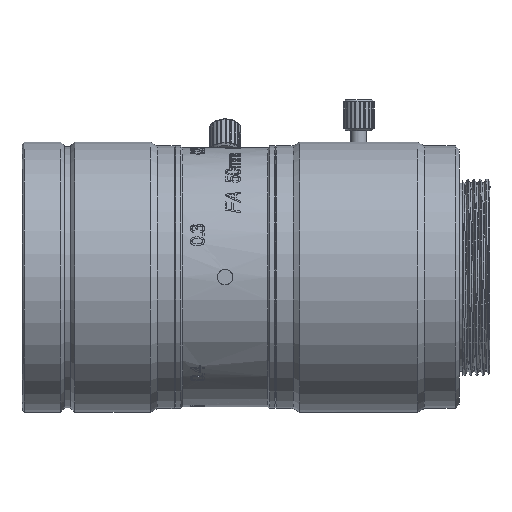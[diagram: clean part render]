
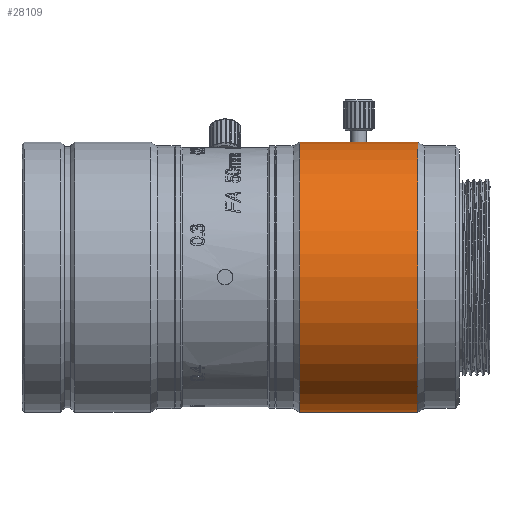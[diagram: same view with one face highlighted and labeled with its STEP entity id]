
A CAD part, front view. The second image highlights one B-rep face of the part: STEP entity #28109.
In plain terms, the highlighted cylindrical face has radius 17.5 mm (diameter 35 mm), a partial arc.
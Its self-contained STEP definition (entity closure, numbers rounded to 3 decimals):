
#1327 = DIRECTION ( 'NONE',  ( 1., 0., 0. ) ) ;
#1519 = CARTESIAN_POINT ( 'NONE',  ( 28.656, -0.801, 17.482 ) ) ;
#1622 = CARTESIAN_POINT ( 'NONE',  ( 48.418, 0., -17.5 ) ) ;
#2088 = FACE_OUTER_BOUND ( 'NONE', #27993, .T. ) ;
#2953 = CARTESIAN_POINT ( 'NONE',  ( 29.402, -1., -17.471 ) ) ;
#3003 = EDGE_CURVE ( 'NONE', #7774, #33556, #17912, .T. ) ;
#3227 = CARTESIAN_POINT ( 'NONE',  ( 29.009, -0.974, -17.473 ) ) ;
#3272 = EDGE_CURVE ( 'NONE', #53386, #48896, #53476, .T. ) ;
#3608 = AXIS2_PLACEMENT_3D ( 'NONE', #28934, #8171, #29209 ) ;
#3927 = ORIENTED_EDGE ( 'NONE', *, *, #31822, .T. ) ;
#4552 = EDGE_CURVE ( 'NONE', #53386, #5721, #21030, .T. ) ;
#5183 = CARTESIAN_POINT ( 'NONE',  ( 30.27, -0.132, 17.5 ) ) ;
#5721 = VERTEX_POINT ( 'NONE', #27954 ) ;
#6274 = CARTESIAN_POINT ( 'NONE',  ( 28.27, 0., 17.5 ) ) ;
#7434 = CARTESIAN_POINT ( 'NONE',  ( 28.655, -0.8, -17.482 ) ) ;
#7637 = CARTESIAN_POINT ( 'NONE',  ( 21.636, 0., 17.5 ) ) ;
#7774 = VERTEX_POINT ( 'NONE', #7637 ) ;
#8171 = DIRECTION ( 'NONE',  ( 1., 0., 0. ) ) ;
#10471 = CARTESIAN_POINT ( 'NONE',  ( 30.27, 0., 17.5 ) ) ;
#10763 = DIRECTION ( 'NONE',  ( 0., 0., -1. ) ) ;
#11664 = VECTOR ( 'NONE', #1327, 1000. ) ;
#12174 = CARTESIAN_POINT ( 'NONE',  ( 29.532, -0.974, -17.473 ) ) ;
#13014 = CARTESIAN_POINT ( 'NONE',  ( 21.636, 0., -17.5 ) ) ;
#13576 = DIRECTION ( 'NONE',  ( 0., 0., -1. ) ) ;
#13863 = CARTESIAN_POINT ( 'NONE',  ( 29.532, -0.974, 17.473 ) ) ;
#14413 = DIRECTION ( 'NONE',  ( 1., 0., 0. ) ) ;
#14613 = ORIENTED_EDGE ( 'NONE', *, *, #3272, .T. ) ;
#14755 = EDGE_CURVE ( 'NONE', #7774, #51654, #14762, .T. ) ;
#14762 = LINE ( 'NONE', #31042, #11664 ) ;
#15551 = CARTESIAN_POINT ( 'NONE',  ( 29.138, -1., -17.471 ) ) ;
#15578 = LINE ( 'NONE', #19796, #19828 ) ;
#15820 = CARTESIAN_POINT ( 'NONE',  ( 30.27, -0.131, -17.5 ) ) ;
#17912 = CIRCLE ( 'NONE', #3608, 17.5 ) ;
#18030 = B_SPLINE_CURVE_WITH_KNOTS ( 'NONE', 3,
 ( #10471, #5183, #52804, #27576, #35425, #22261, #44664, #13863, #53089, #34876, #30962, #26485, #1519, #39351, #31514, #23085, #26751, #6274 ),
 .UNSPECIFIED., .F., .F.,
 ( 4, 2, 2, 2, 2, 2, 2, 2, 4 ),
 ( 0., 0., 0.001, 0.001, 0.002, 0.002, 0.002, 0.003, 0.003 ),
 .UNSPECIFIED. ) ;
#18320 = ORIENTED_EDGE ( 'NONE', *, *, #14755, .F. ) ;
#19796 = CARTESIAN_POINT ( 'NONE',  ( 48.418, 0., 17.5 ) ) ;
#19828 = VECTOR ( 'NONE', #45582, 1000. ) ;
#20302 = CARTESIAN_POINT ( 'NONE',  ( 28.766, -0.874, -17.478 ) ) ;
#20584 = CARTESIAN_POINT ( 'NONE',  ( 28.27, -0.264, -17.5 ) ) ;
#20866 = CARTESIAN_POINT ( 'NONE',  ( 30.069, -0.614, -17.489 ) ) ;
#21020 = CARTESIAN_POINT ( 'NONE',  ( 36.895, 0., -17.5 ) ) ;
#21030 = B_SPLINE_CURVE_WITH_KNOTS ( 'NONE', 3,
 ( #28460, #15820, #50593, #29293, #20866, #41622, #49768, #12174, #2953, #15551, #3227, #20302, #7434, #33201, #20584, #37684 ),
 .UNSPECIFIED., .F., .F.,
 ( 4, 2, 2, 2, 2, 2, 2, 4 ),
 ( 0.003, 0.004, 0.004, 0.004, 0.005, 0.005, 0.005, 0.006 ),
 .UNSPECIFIED. ) ;
#22249 = CARTESIAN_POINT ( 'NONE',  ( 36.895, 0., 0. ) ) ;
#22261 = CARTESIAN_POINT ( 'NONE',  ( 29.884, -0.799, 17.482 ) ) ;
#22302 = CARTESIAN_POINT ( 'NONE',  ( 28.27, 0., 17.5 ) ) ;
#22542 = EDGE_CURVE ( 'NONE', #29590, #48896, #50356, .T. ) ;
#23085 = CARTESIAN_POINT ( 'NONE',  ( 28.295, -0.261, 17.498 ) ) ;
#23875 = ORIENTED_EDGE ( 'NONE', *, *, #22542, .F. ) ;
#24780 = CARTESIAN_POINT ( 'NONE',  ( 48.418, 0., -17.5 ) ) ;
#25087 = ORIENTED_EDGE ( 'NONE', *, *, #34514, .T. ) ;
#25613 = LINE ( 'NONE', #24780, #34065 ) ;
#25885 = DIRECTION ( 'NONE',  ( 1., 0., 0. ) ) ;
#26187 = AXIS2_PLACEMENT_3D ( 'NONE', #22249, #51693, #13576 ) ;
#26485 = CARTESIAN_POINT ( 'NONE',  ( 28.766, -0.874, 17.478 ) ) ;
#26747 = CARTESIAN_POINT ( 'NONE',  ( 30.27, 0., -17.5 ) ) ;
#26751 = CARTESIAN_POINT ( 'NONE',  ( 28.27, -0.131, 17.5 ) ) ;
#27576 = CARTESIAN_POINT ( 'NONE',  ( 30.143, -0.504, 17.493 ) ) ;
#27755 = VERTEX_POINT ( 'NONE', #32683 ) ;
#27954 = CARTESIAN_POINT ( 'NONE',  ( 28.27, 0., -17.5 ) ) ;
#27993 = EDGE_LOOP ( 'NONE', ( #18320, #49236, #3927, #44930, #14613, #23875, #29457, #25087 ) ) ;
#28109 = ADVANCED_FACE ( 'NONE', ( #2088 ), #49165, .T. ) ;
#28460 = CARTESIAN_POINT ( 'NONE',  ( 30.27, 0., -17.5 ) ) ;
#28934 = CARTESIAN_POINT ( 'NONE',  ( 21.636, 0., 0. ) ) ;
#29209 = DIRECTION ( 'NONE',  ( 0., 0., -1. ) ) ;
#29293 = CARTESIAN_POINT ( 'NONE',  ( 30.144, -0.503, -17.493 ) ) ;
#29457 = ORIENTED_EDGE ( 'NONE', *, *, #49392, .F. ) ;
#29590 = VERTEX_POINT ( 'NONE', #51314 ) ;
#30962 = CARTESIAN_POINT ( 'NONE',  ( 29.008, -0.974, 17.473 ) ) ;
#31042 = CARTESIAN_POINT ( 'NONE',  ( 48.418, 0., 17.5 ) ) ;
#31514 = CARTESIAN_POINT ( 'NONE',  ( 28.396, -0.504, 17.493 ) ) ;
#31822 = EDGE_CURVE ( 'NONE', #33556, #5721, #25613, .T. ) ;
#32683 = CARTESIAN_POINT ( 'NONE',  ( 30.27, 0., 17.5 ) ) ;
#33201 = CARTESIAN_POINT ( 'NONE',  ( 28.378, -0.523, -17.493 ) ) ;
#33556 = VERTEX_POINT ( 'NONE', #13014 ) ;
#34065 = VECTOR ( 'NONE', #25885, 1000. ) ;
#34514 = EDGE_CURVE ( 'NONE', #27755, #51654, #18030, .T. ) ;
#34876 = CARTESIAN_POINT ( 'NONE',  ( 29.139, -1., 17.471 ) ) ;
#35425 = CARTESIAN_POINT ( 'NONE',  ( 30.069, -0.615, 17.489 ) ) ;
#37684 = CARTESIAN_POINT ( 'NONE',  ( 28.27, 0., -17.5 ) ) ;
#39351 = CARTESIAN_POINT ( 'NONE',  ( 28.469, -0.614, 17.489 ) ) ;
#39473 = VECTOR ( 'NONE', #44499, 1000. ) ;
#40753 = CARTESIAN_POINT ( 'NONE',  ( 48.418, 0., 0. ) ) ;
#41622 = CARTESIAN_POINT ( 'NONE',  ( 29.885, -0.799, -17.482 ) ) ;
#44499 = DIRECTION ( 'NONE',  ( 1., 0., 0. ) ) ;
#44664 = CARTESIAN_POINT ( 'NONE',  ( 29.773, -0.874, 17.478 ) ) ;
#44930 = ORIENTED_EDGE ( 'NONE', *, *, #4552, .F. ) ;
#45582 = DIRECTION ( 'NONE',  ( 1., 0., 0. ) ) ;
#48896 = VERTEX_POINT ( 'NONE', #21020 ) ;
#49165 = CYLINDRICAL_SURFACE ( 'NONE', #53653, 17.5 ) ;
#49236 = ORIENTED_EDGE ( 'NONE', *, *, #3003, .T. ) ;
#49392 = EDGE_CURVE ( 'NONE', #27755, #29590, #15578, .T. ) ;
#49768 = CARTESIAN_POINT ( 'NONE',  ( 29.774, -0.873, -17.478 ) ) ;
#50356 = CIRCLE ( 'NONE', #26187, 17.5 ) ;
#50593 = CARTESIAN_POINT ( 'NONE',  ( 30.243, -0.262, -17.498 ) ) ;
#51314 = CARTESIAN_POINT ( 'NONE',  ( 36.895, 0., 17.5 ) ) ;
#51654 = VERTEX_POINT ( 'NONE', #22302 ) ;
#51693 = DIRECTION ( 'NONE',  ( 1., 0., 0. ) ) ;
#52804 = CARTESIAN_POINT ( 'NONE',  ( 30.243, -0.262, 17.498 ) ) ;
#53089 = CARTESIAN_POINT ( 'NONE',  ( 29.4, -1., 17.471 ) ) ;
#53386 = VERTEX_POINT ( 'NONE', #26747 ) ;
#53476 = LINE ( 'NONE', #1622, #39473 ) ;
#53653 = AXIS2_PLACEMENT_3D ( 'NONE', #40753, #14413, #10763 ) ;
